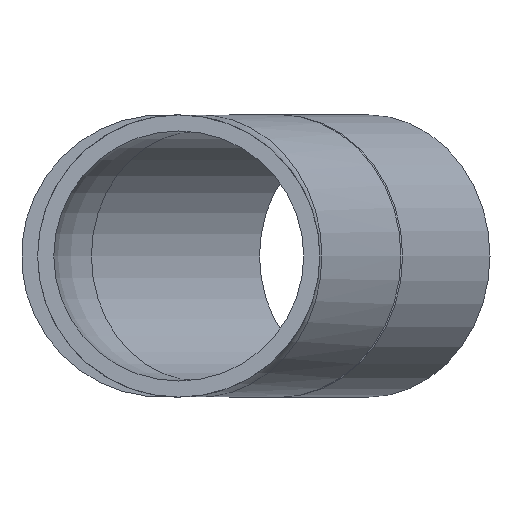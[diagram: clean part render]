
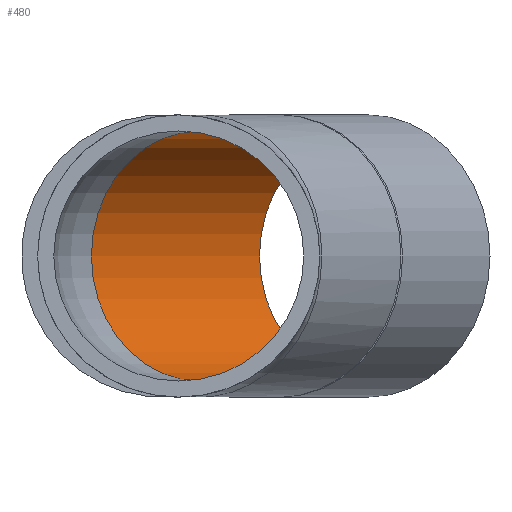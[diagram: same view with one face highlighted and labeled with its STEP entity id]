
A CAD part, front view. The second image highlights one B-rep face of the part: STEP entity #480.
In plain terms, the highlighted cylindrical face has radius 24.8 mm (diameter 49.6 mm), a full revolution.
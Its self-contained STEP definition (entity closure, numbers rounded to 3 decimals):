
#77=CYLINDRICAL_SURFACE($,#535,24.8);
#92=FACE_BOUND($,#162,.T.);
#120=FACE_OUTER_BOUND($,#161,.T.);
#161=EDGE_LOOP($,(#416));
#162=EDGE_LOOP($,(#417));
#187=CIRCLE($,#530,24.8);
#190=CIRCLE($,#536,24.8);
#234=VERTEX_POINT($,#1161);
#237=VERTEX_POINT($,#1170);
#295=EDGE_CURVE($,#234,#234,#187,.T.);
#298=EDGE_CURVE($,#237,#237,#190,.T.);
#416=ORIENTED_EDGE($,*,*,#298,.F.);
#417=ORIENTED_EDGE($,*,*,#295,.T.);
#480=ADVANCED_FACE($,(#120,#92),#77,.F.);
#530=AXIS2_PLACEMENT_3D($,#1162,#634,#635);
#535=AXIS2_PLACEMENT_3D($,#1169,#644,#645);
#536=AXIS2_PLACEMENT_3D($,#1171,#646,#647);
#634=DIRECTION('center_axis',(-0.5,-0.866,0.));
#635=DIRECTION('ref_axis',(0.866,-0.5,0.));
#644=DIRECTION('center_axis',(-0.5,-0.866,0.));
#645=DIRECTION('ref_axis',(0.866,-0.5,0.));
#646=DIRECTION('center_axis',(-0.5,-0.866,0.));
#647=DIRECTION('ref_axis',(0.866,-0.5,0.));
#1161=CARTESIAN_POINT('',(-17.324,64.594,0.));
#1162=CARTESIAN_POINT('Origin',(4.153,52.194,0.));
#1169=CARTESIAN_POINT('Origin',(20.827,81.073,0.));
#1170=CARTESIAN_POINT('',(58.977,97.552,0.));
#1171=CARTESIAN_POINT('Origin',(37.5,109.952,0.));
